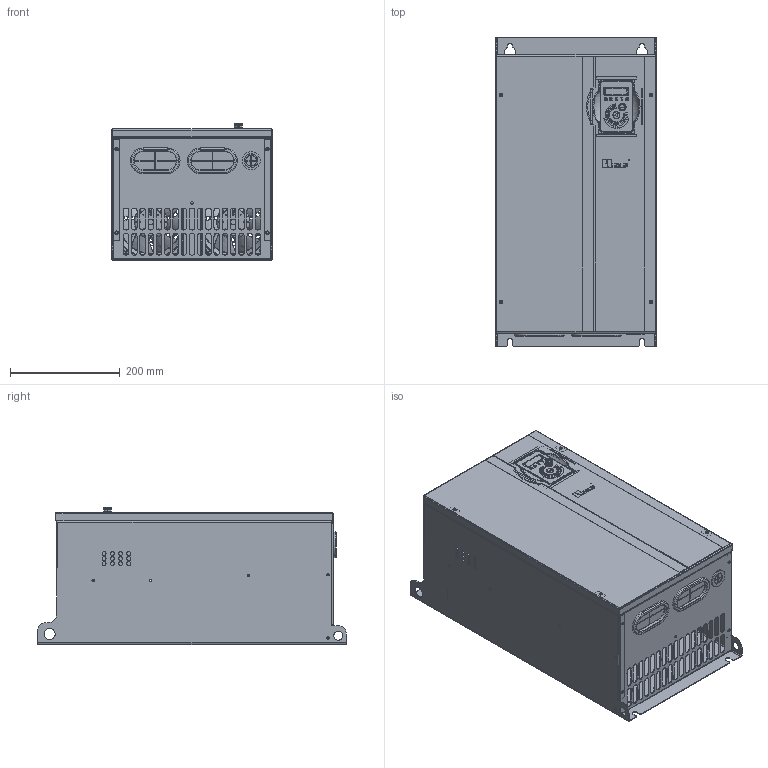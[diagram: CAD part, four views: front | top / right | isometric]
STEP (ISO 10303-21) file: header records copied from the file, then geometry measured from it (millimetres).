
FILE_DESCRIPTION((''),'2;1');
FILE_NAME('HP106-A5-2','2016-10-28T',('u251257'),('Danfoss Power Electronics'),'CREO PARAMETRIC BY PTC INC, 2015480','CREO PARAMETRIC BY PTC INC, 2015480','');
FILE_SCHEMA(('CONFIG_CONTROL_DESIGN','GEOMETRIC_VALIDATION_PROPERTIES_MIM'));
Products named in the file (1): HP106-A5-2
Bounding box: 292 x 562 x 249.24 mm (x, y, z)
Volume: 1308248.2 mm3; surface area: 1700738.5 mm2
Topology: 21 solids, 37 shells, 3756 faces, 10236 edges, 6603 vertices
Faces by surface type: plane 1557, cylinder 1105, cone 368, bspline 352, torus 324, extrusion 32, sphere 14, revolution 4
Entity records: 140661 total; most frequent: CARTESIAN_POINT 45554, ORIENTED_EDGE 20452, DIRECTION 18523, EDGE_CURVE 10226, AXIS2_PLACEMENT_3D 6704, VERTEX_POINT 6603, VECTOR 5111, LINE 5079
